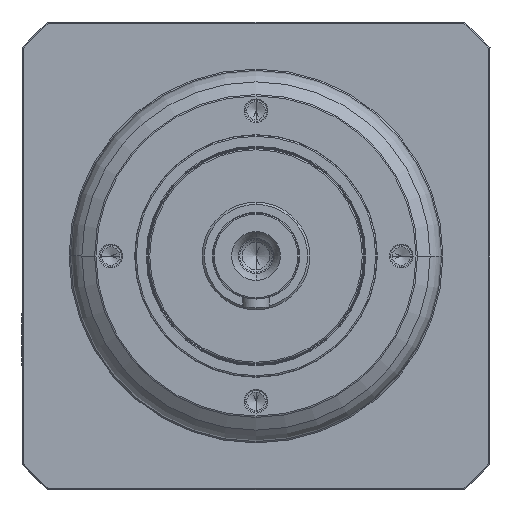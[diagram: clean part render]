
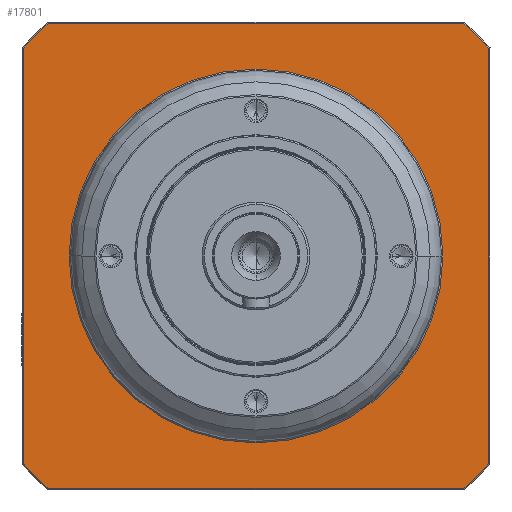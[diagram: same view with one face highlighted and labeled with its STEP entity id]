
A CAD part, left-side view. The second image highlights one B-rep face of the part: STEP entity #17801.
In plain terms, the highlighted planar face has unit normal (-1, 0, 0) as drawn and (0, 0, -1) by its records, which use the part's own axes.
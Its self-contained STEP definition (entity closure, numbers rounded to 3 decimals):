
#16687=CARTESIAN_POINT('',(0.,0.,
2.5));
#16688=DIRECTION('',(0.,0.,-1.));
#16689=DIRECTION('',(0.,-1.,0.));
#16690=AXIS2_PLACEMENT_3D('',#16687,#16688,#16689);
#16692=CARTESIAN_POINT('',(0.,0.,
2.5));
#16693=DIRECTION('',(0.,0.,-1.));
#16694=DIRECTION('',(0.,1.,0.));
#16695=AXIS2_PLACEMENT_3D('',#16692,#16693,#16694);
#16697=CARTESIAN_POINT('',(0.,0.,2.5));
#16698=DIRECTION('',(0.,0.,1.));
#16699=DIRECTION('',(-0.746,-0.666,0.));
#16700=AXIS2_PLACEMENT_3D('',#16697,#16698,#16699);
#16702=DIRECTION('',(1.,0.,0.));
#16703=VECTOR('',#16702,154.58);
#16704=CARTESIAN_POINT('',(-77.29,-86.5,
2.5));
#16705=LINE('',#16704,#16703);
#16706=CARTESIAN_POINT('',(0.,0.,2.5));
#16707=DIRECTION('',(0.,0.,1.));
#16708=DIRECTION('',(0.666,-0.746,0.));
#16709=AXIS2_PLACEMENT_3D('',#16706,#16707,#16708);
#16711=DIRECTION('',(0.,1.,0.));
#16712=VECTOR('',#16711,154.58);
#16713=CARTESIAN_POINT('',(86.5,-77.29,
2.5));
#16714=LINE('',#16713,#16712);
#16715=CARTESIAN_POINT('',(0.,0.,2.5));
#16716=DIRECTION('',(0.,0.,1.));
#16717=DIRECTION('',(0.746,0.666,0.));
#16718=AXIS2_PLACEMENT_3D('',#16715,#16716,#16717);
#16720=DIRECTION('',(-1.,0.,0.));
#16721=VECTOR('',#16720,154.58);
#16722=CARTESIAN_POINT('',(77.29,86.5,2.5));
#16723=LINE('',#16722,#16721);
#16724=CARTESIAN_POINT('',(0.,0.,2.5));
#16725=DIRECTION('',(0.,0.,1.));
#16726=DIRECTION('',(-0.666,0.746,0.));
#16727=AXIS2_PLACEMENT_3D('',#16724,#16725,#16726);
#16729=DIRECTION('',(0.,-1.,0.));
#16730=VECTOR('',#16729,154.58);
#16731=CARTESIAN_POINT('',(-86.5,77.29,
2.5));
#16732=LINE('',#16731,#16730);
#17450=CARTESIAN_POINT('',(0.,-69.5,2.5));
#17451=CARTESIAN_POINT('',(0.,69.5,
2.5));
#17452=VERTEX_POINT('',#17450);
#17453=VERTEX_POINT('',#17451);
#17554=CARTESIAN_POINT('',(-86.5,-77.29,2.5));
#17555=CARTESIAN_POINT('',(-77.29,-86.5,2.5));
#17556=VERTEX_POINT('',#17554);
#17557=VERTEX_POINT('',#17555);
#17562=CARTESIAN_POINT('',(77.29,-86.5,
2.5));
#17563=VERTEX_POINT('',#17562);
#17566=CARTESIAN_POINT('',(86.5,-77.29,2.5));
#17567=VERTEX_POINT('',#17566);
#17570=CARTESIAN_POINT('',(86.5,77.29,2.5));
#17571=VERTEX_POINT('',#17570);
#17574=CARTESIAN_POINT('',(77.29,86.5,2.5));
#17575=VERTEX_POINT('',#17574);
#17578=CARTESIAN_POINT('',(-77.29,86.5,
2.5));
#17579=VERTEX_POINT('',#17578);
#17584=CARTESIAN_POINT('',(-86.5,77.29,2.5));
#17585=VERTEX_POINT('',#17584);
#17773=CARTESIAN_POINT('',(0.,0.,2.5));
#17774=DIRECTION('',(0.,0.,1.));
#17775=DIRECTION('',(0.,1.,0.));
#17776=AXIS2_PLACEMENT_3D('',#17773,#17774,#17775);
#17777=PLANE('',#17776);
#17779=ORIENTED_EDGE('',*,*,#17778,.T.);
#17781=ORIENTED_EDGE('',*,*,#17780,.T.);
#17783=ORIENTED_EDGE('',*,*,#17782,.T.);
#17785=ORIENTED_EDGE('',*,*,#17784,.T.);
#17787=ORIENTED_EDGE('',*,*,#17786,.T.);
#17789=ORIENTED_EDGE('',*,*,#17788,.T.);
#17791=ORIENTED_EDGE('',*,*,#17790,.T.);
#17793=ORIENTED_EDGE('',*,*,#17792,.T.);
#17794=EDGE_LOOP('',(#17779,#17781,#17783,#17785,#17787,#17789,#17791,#17793));
#17795=FACE_OUTER_BOUND('',#17794,.F.);
#17797=ORIENTED_EDGE('',*,*,#17796,.T.);
#17798=ORIENTED_EDGE('',*,*,#17763,.T.);
#17799=EDGE_LOOP('',(#17797,#17798));
#17800=FACE_BOUND('',#17799,.F.);
#17801=ADVANCED_FACE('',(#17795,#17800),#17777,.F.);
#16691=CIRCLE('',#16690,69.5);
#16696=CIRCLE('',#16695,69.5);
#16701=CIRCLE('',#16700,116.);
#16710=CIRCLE('',#16709,116.);
#16719=CIRCLE('',#16718,116.);
#16728=CIRCLE('',#16727,116.);
#17763=EDGE_CURVE('',#17453,#17452,#16696,.T.);
#17778=EDGE_CURVE('',#17556,#17557,#16701,.T.);
#17780=EDGE_CURVE('',#17557,#17563,#16705,.T.);
#17782=EDGE_CURVE('',#17563,#17567,#16710,.T.);
#17784=EDGE_CURVE('',#17567,#17571,#16714,.T.);
#17786=EDGE_CURVE('',#17571,#17575,#16719,.T.);
#17788=EDGE_CURVE('',#17575,#17579,#16723,.T.);
#17790=EDGE_CURVE('',#17579,#17585,#16728,.T.);
#17792=EDGE_CURVE('',#17585,#17556,#16732,.T.);
#17796=EDGE_CURVE('',#17452,#17453,#16691,.T.);
